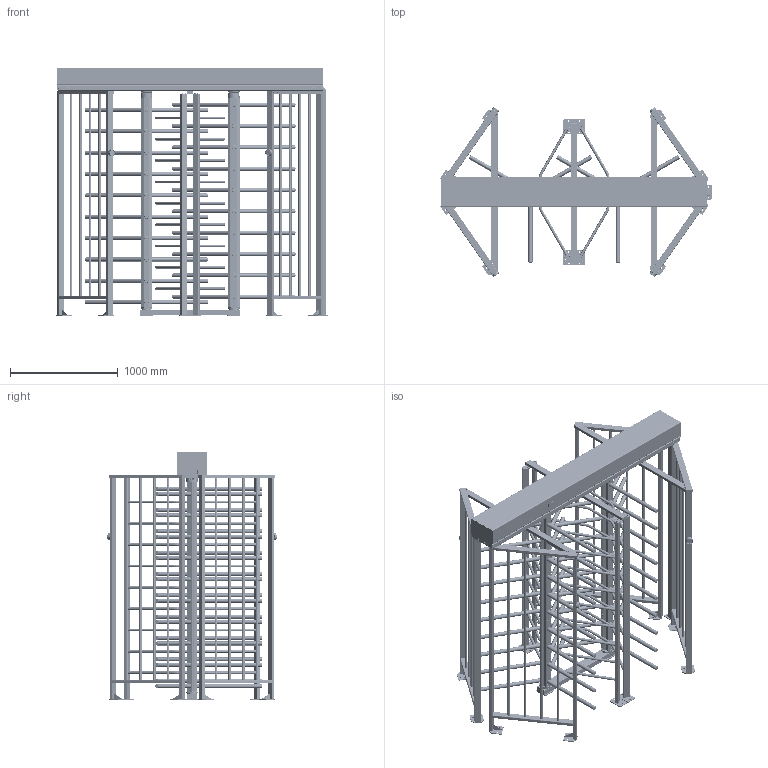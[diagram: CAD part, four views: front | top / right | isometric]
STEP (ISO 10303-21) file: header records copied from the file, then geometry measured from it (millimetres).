
FILE_DESCRIPTION(/* description */ ('Unknown'),/* implementation_level */ '2;1');
FILE_NAME(/* name */ 'RTD-20_для STEP',/* time_stamp */ '2021-11-23T13:23:26+03:00',/* author */ ('Unknown'),/* organization */ ('Unknown'),/* preprocessor_version */ 'ST-DEVELOPER v18.1',/* originating_system */ 'Solid Edge',/* authorisation */ 'Unknown');
FILE_SCHEMA (('CONFIG_CONTROL_DESIGN'));
Products named in the file (112): RTD-20_äëÿ STEP; RTD-20.120.00 Îïîðà ðîòîðîâ; RTD-20.120.01 ﾊⅱ髜; RTD-16.1.140.07 咍嚦; RTD-20.120.02 砑僔蠂縺; RTD-20.120.03 砑僔蠂縺; Çàãëóøêà 62ÌÐ0687 (d îòâ. 17,4, ÷åðíàÿ); RTD-16.1.120.00 Ôîðìèðîâàòåëü â ñáîðå_oa_0; RTD-16.1.121.00 Ôîðìèðîâàòåëü; RTD-16.1.120.01 Ñòîéêà ïåðåäíÿÿ_r2; RTD-16.1.120.04 ﾇ瑜鸙淲湜蘋r3; RTD-16.1.120.02 Ñòîéêà çàäíÿÿ; RTD-16.1.120.03 Áàëêà íèæíÿÿ; RTD-16.1.120.06 ﾐ裔; RTD-16.1.120.05 Ïëàñòèíà îïîðíàÿ; RTD-16.1.122.00 Áàëêà ñî øïèëüêîé; RTD-16.1.121.02 仫桦郷r4; RTD-16.1.121.01 Áàëêà âåðõíÿÿ_r3; Çàãëóøêà 60õ30 (÷åðí.); RTD-16.1.270.00 鍛鍧 鴈儰罻灕醂oa_1; RTD-16.1.270.01 扻豵鵨_r1; RTD-15.257.04 栺樏鋋_r1; RTD-16.1.259.00 Ïëàòà èíäèêàöèè â ñáîðå_oa_2; RTD-15.259.01 秮僳僦殣_r3_oa_3; RTD-16.1.120.07 青汶篪赅; ﾂ竟M4x6_DIN_913_淲._ﾀ2; RTD-16.1.130.00 Ôîðìèðîâàòåëü â ñáîðå_oa_4; RTD-16.1.131.00 Ôîðìèðîâàòåëü; RTD-16.1.132.00 Áàëêà ñî øïèëüêîé; RTD-16.1.131.01 Áàëêà âåðõíÿÿ_r3; RTD-16.1.270.00 鍛鍧 鴈儰罻灕醂oa_5; RTD-16.1.259.00 Ïëàòà èíäèêàöèè â ñáîðå_oa_6; RTD-15.259.01 秮僳僦殣_r3_oa_7; RTD-16.1.110.00 Áàëêà îïîðíàÿ_oa_8; RTD-16.1.110.01 醜鍆趌r2; 鎔艜_M5x10_DIN_965; RTD-16.1.120.00 Ôîðìèðîâàòåëü â ñáîðå_oa_9; RTD-16.1.270.00 鍛鍧 鴈儰罻灕醂oa_10; RTD-16.1.259.00 Ïëàòà èíäèêàöèè â ñáîðå_oa_11; RTD-15.259.01 秮僳僦殣_r3_oa_12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
Assembly tree (426 placements, depth 6):
  RTD-20_äëÿ STEP
    RTD-20.120.00 Îïîðà ðîòîðîâ
      RTD-20.120.01 ﾊⅱ髜
      RTD-16.1.140.07 咍嚦  x2
      RTD-20.120.02 砑僔蠂縺  x2
      RTD-20.120.03 砑僔蠂縺  x2
      Çàãëóøêà 62ÌÐ0687 (d îòâ. 17,4, ÷åðíàÿ)  x4
    RTD-16.1.120.00 Ôîðìèðîâàòåëü â ñáîðå_oa_0
      RTD-16.1.121.00 Ôîðìèðîâàòåëü
        RTD-16.1.120.01 Ñòîéêà ïåðåäíÿÿ_r2
        RTD-16.1.120.04 ﾇ瑜鸙淲湜蘋r3  x4
        RTD-16.1.120.02 Ñòîéêà çàäíÿÿ
        RTD-16.1.120.03 Áàëêà íèæíÿÿ
        RTD-16.1.120.06 ﾐ裔  x2
        RTD-16.1.120.05 Ïëàñòèíà îïîðíàÿ  x2
        RTD-16.1.122.00 Áàëêà ñî øïèëüêîé
          RTD-16.1.121.02 仫桦郷r4
          RTD-16.1.121.01 Áàëêà âåðõíÿÿ_r3
      Çàãëóøêà 60õ30 (÷åðí.)
      RTD-16.1.270.00 鍛鍧 鴈儰罻灕醂oa_1
        RTD-16.1.270.01 扻豵鵨_r1
        RTD-15.257.04 栺樏鋋_r1
        RTD-16.1.259.00 Ïëàòà èíäèêàöèè â ñáîðå_oa_2
          RTD-15.259.01 秮僳僦殣_r3_oa_3
      RTD-16.1.120.07 青汶篪赅
      ﾂ竟M4x6_DIN_913_淲._ﾀ2  x4
    RTD-16.1.130.00 Ôîðìèðîâàòåëü â ñáîðå_oa_4
      RTD-16.1.131.00 Ôîðìèðîâàòåëü
        RTD-16.1.120.02 Ñòîéêà çàäíÿÿ
        RTD-16.1.120.01 Ñòîéêà ïåðåäíÿÿ_r2
        RTD-16.1.120.03 Áàëêà íèæíÿÿ
        RTD-16.1.120.06 ﾐ裔  x2
        RTD-16.1.120.05 Ïëàñòèíà îïîðíàÿ  x2
        RTD-16.1.120.04 ﾇ瑜鸙淲湜蘋r3  x4
        RTD-16.1.132.00 Áàëêà ñî øïèëüêîé
          RTD-16.1.131.01 Áàëêà âåðõíÿÿ_r3
          RTD-16.1.121.02 仫桦郷r4
      Çàãëóøêà 60õ30 (÷åðí.)
      RTD-16.1.270.00 鍛鍧 鴈儰罻灕醂oa_5
        RTD-16.1.270.01 扻豵鵨_r1
        RTD-15.257.04 栺樏鋋_r1
        RTD-16.1.259.00 Ïëàòà èíäèêàöèè â ñáîðå_oa_6
          RTD-15.259.01 秮僳僦殣_r3_oa_7
      RTD-16.1.120.07 青汶篪赅
      ﾂ竟M4x6_DIN_913_淲._ﾀ2  x4
    RTD-16.1.110.00 Áàëêà îïîðíàÿ_oa_8
      RTD-16.1.110.01 醜鍆趌r2
      鎔艜_M5x10_DIN_965  x8
    RTD-16.1.120.00 Ôîðìèðîâàòåëü â ñáîðå_oa_9
      RTD-16.1.121.00 Ôîðìèðîâàòåëü
        RTD-16.1.120.01 Ñòîéêà ïåðåäíÿÿ_r2
        RTD-16.1.120.04 ﾇ瑜鸙淲湜蘋r3  x4
        RTD-16.1.120.02 Ñòîéêà çàäíÿÿ
        RTD-16.1.120.03 Áàëêà íèæíÿÿ
        RTD-16.1.120.06 ﾐ裔  x2
        RTD-16.1.120.05 Ïëàñòèíà îïîðíàÿ  x2
        RTD-16.1.122.00 Áàëêà ñî øïèëüêîé
          RTD-16.1.121.02 仫桦郷r4
          RTD-16.1.121.01 Áàëêà âåðõíÿÿ_r3
      Çàãëóøêà 60õ30 (÷åðí.)
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Bounding box: 2515.4 x 1575.12 x 2305.25 mm (x, y, z)
Volume: 47014368 mm3; surface area: 40367577.2 mm2
Topology: 558 solids, 558 shells, 7734 faces, 17371 edges, 11295 vertices
Faces by surface type: plane 3766, cylinder 3110, torus 370, cone 280, bspline 204, sphere 4
Full cylindrical faces by diameter (mm): 1.2 x16, 2.4 x100, 3.242 x16, 4 x16, 4.2 x16, 4.3 x16, 4.917 x24, 5 x62, 6 x32, 6.4 x8, 6.466 x20, 6.647 x66, 7 x42, 7.8 x8, 8 x68, 9 x28, 9.3 x16, 10 x98, 10.5 x8, 11 x20, 12 x12, 13 x110, 15 x30, 16 x172, 17 x4, 18 x96, 19 x6, 19.8 x4, 20 x70, 21 x4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
Entity records: 72669 total; most frequent: CARTESIAN_POINT 15439, DIRECTION 11023, ORIENTED_EDGE 9352, EDGE_CURVE 4676, AXIS2_PLACEMENT_3D 4160, FACE_BOUND 3600, EDGE_LOOP 3587, VERTEX_POINT 3360
